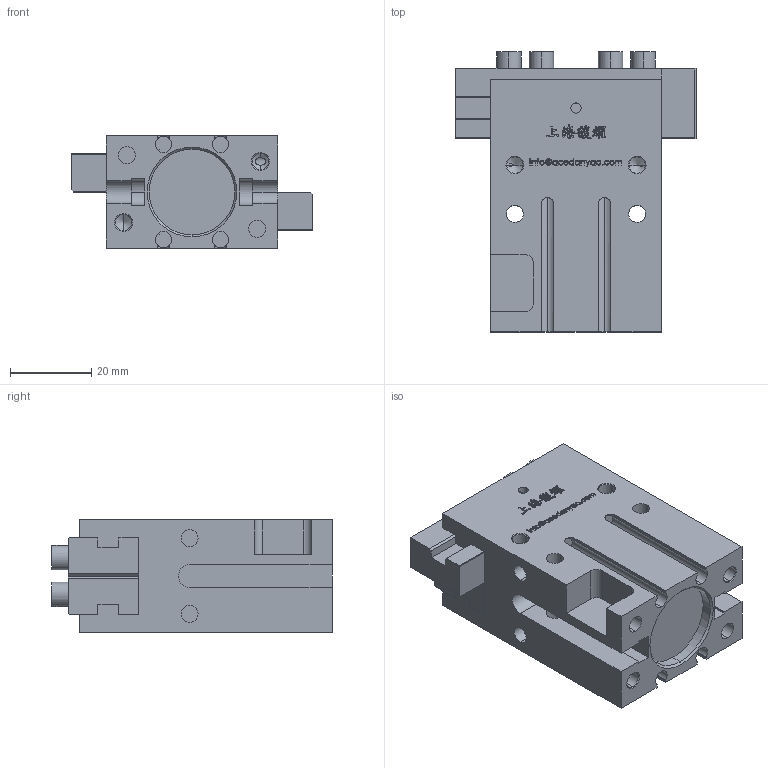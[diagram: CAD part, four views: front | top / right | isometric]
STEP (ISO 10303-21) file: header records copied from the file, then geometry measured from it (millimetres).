
FILE_DESCRIPTION (( 'STEP AP203' ), '1' );
FILE_NAME ('PEP-20-C2-VT-原始檔-組合-W106.04.20.STEP', '2017-04-20T02:35:24', ( 'DanyaoCAD' ), ( '' ), 'SwSTEP 2.0', 'SolidWorks 2016', '' );
FILE_SCHEMA (( 'CONFIG_CONTROL_DESIGN' ));
Length unit declared in the file: millimetre
Products named in the file (3): Griffa; Corpo; PEP-20-C2-VT-原始檔-組合-W106.04.20
Assembly tree (3 placements, depth 2):
  PEP-20-C2-VT-原始檔-組合-W106.04.20
    Griffa  x2
    Corpo
Bounding box: 59 x 68.8 x 27.6 mm (x, y, z)
Volume: 65405.5 mm3; surface area: 23921.7 mm2
Topology: 3 solids, 3 shells, 1010 faces, 2811 edges, 1865 vertices
Faces by surface type: bspline 640, plane 261, cylinder 91, cone 18
Entity records: 48012 total; most frequent: CARTESIAN_POINT 26904, ORIENTED_EDGE 5442, EDGE_CURVE 2721, DIRECTION 2271, VERTEX_POINT 1809, B_SPLINE_CURVE_WITH_KNOTS 1298, VECTOR 1255, LINE 1255
